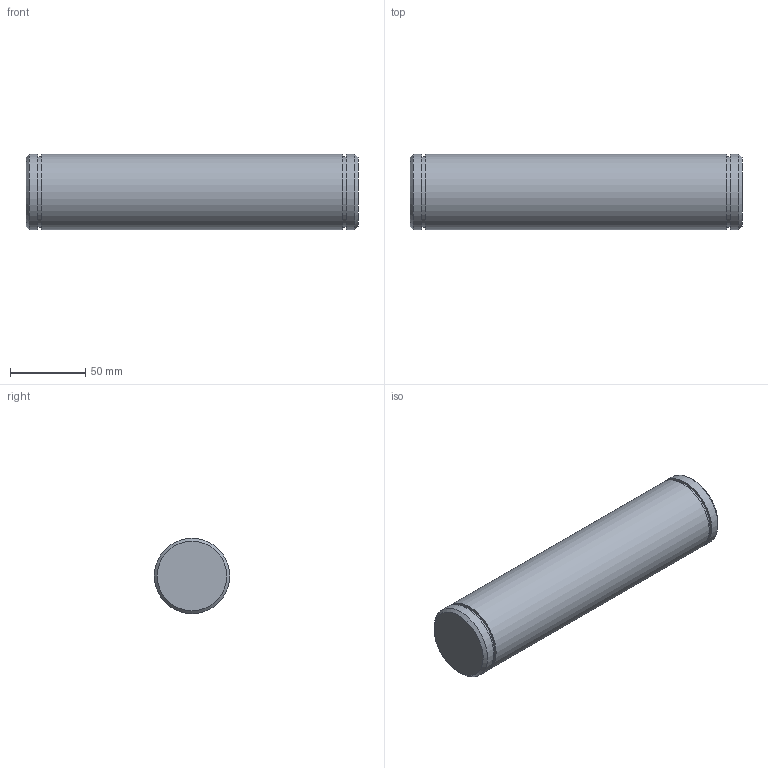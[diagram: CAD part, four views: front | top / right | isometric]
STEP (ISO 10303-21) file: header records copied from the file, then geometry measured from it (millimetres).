
FILE_DESCRIPTION(/* description */ (''),/* implementation_level */ '2;1');
FILE_NAME(/* name */ 'C:\Users\jbart\OneDrive\Plocha\Nová složka\3D modely - stp\Hřídel IV.stp',/* time_stamp */ '2025-05-15T16:49:01+02:00',/* author */ ('jbart'),/* organization */ (''),/* preprocessor_version */ 'ST-DEVELOPER v18.1',/* originating_system */ 'Autodesk Inventor 2022',/* authorisation */ '');
FILE_SCHEMA (('AUTOMOTIVE_DESIGN { 1 0 10303 214 3 1 1 }'));
Length unit declared in the file: millimetre
Products named in the file (1): Hřídel IV
Bounding box: 220 x 50 x 50 mm (x, y, z)
Volume: 430306.1 mm3; surface area: 38976.9 mm2
Topology: 1 solids, 1 shells, 13 faces, 21 edges, 14 vertices
Faces by surface type: plane 6, cylinder 5, cone 2
Full cylindrical faces by diameter (mm): 47 x2, 50 x3
Entity records: 348 total; most frequent: DIRECTION 63, CARTESIAN_POINT 49, ORIENTED_EDGE 42, AXIS2_PLACEMENT_3D 28, EDGE_CURVE 21, EDGE_LOOP 17, CIRCLE 14, VERTEX_POINT 14
